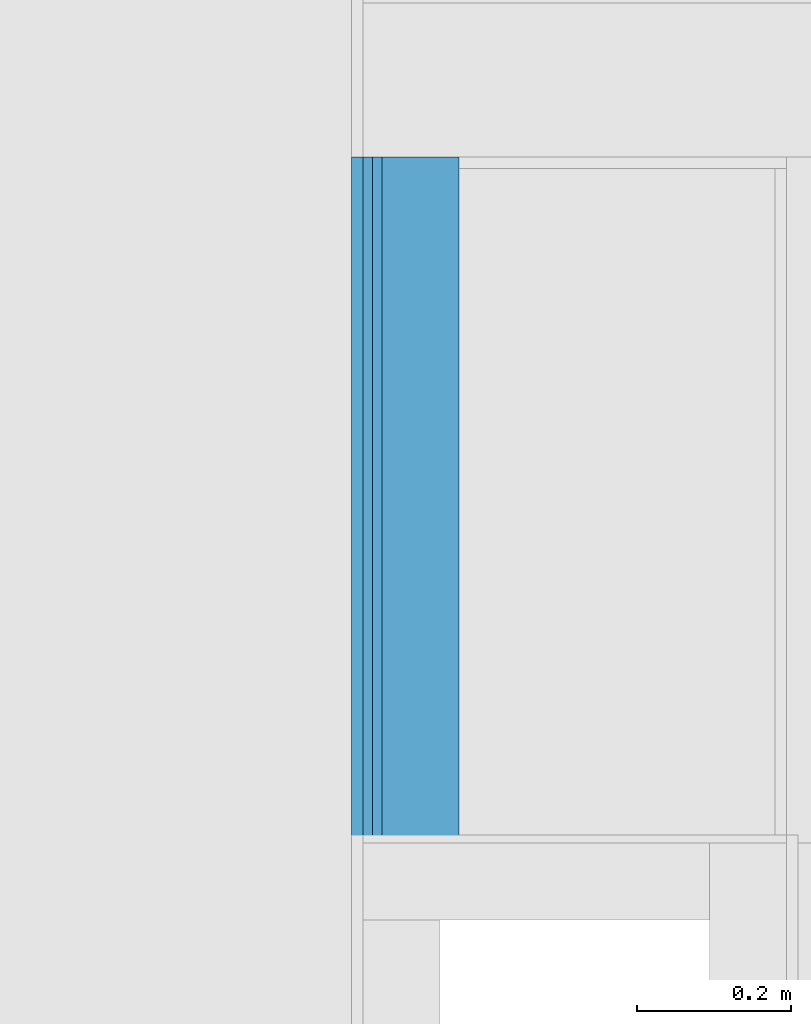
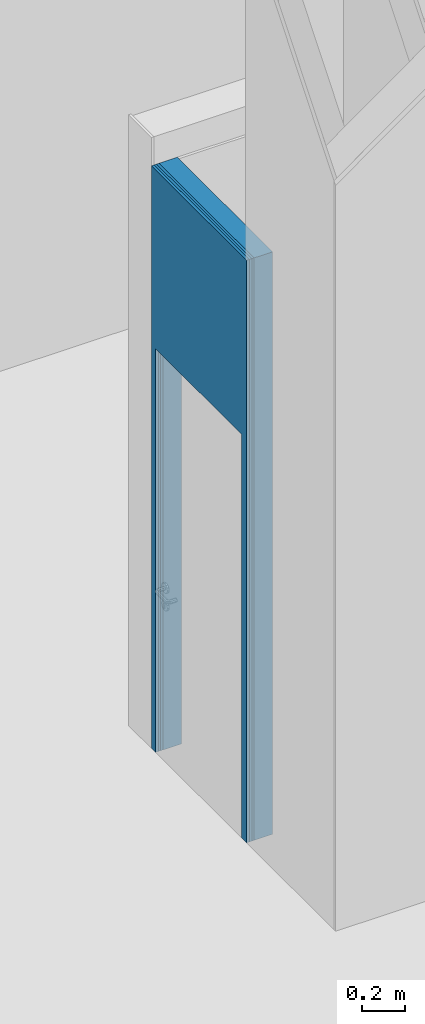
# One storey, part 29 of 139: 4 building element parts, 1 opening, 1 element without a shape of its own.
"""IFC2X3 building model written with IfcOpenShell, lengths in millimetres."""

from ifc_helpers import new_model, entity, si_unit, converted_unit, derived_unit, money_unit, direction, frame, origin_with_axes, place, context, subcontext, project, spatial, faceted_brep, material, type_object, element, aggregate, save


model = new_model("IFC2X3")

# Units and contexts
model_context = context("Model", 3, precision=0.01, world=origin_with_axes(), true_north=direction((0.0, 1.0)))
body_context = subcontext(model_context, "Body", "Model", "MODEL_VIEW")
ifc_project = project(units=[si_unit("LENGTHUNIT", "METRE", prefix="MILLI"), si_unit("AREAUNIT", "SQUARE_METRE"), si_unit("VOLUMEUNIT", "CUBIC_METRE"), converted_unit("PLANEANGLEUNIT", "DEGREE", entity("IfcPlaneAngleMeasure", 0.0174532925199), si_unit("PLANEANGLEUNIT", "RADIAN"), dimensions=[0, 0, 0, 0, 0, 0, 0]), money_unit("EUR"), converted_unit("TIMEUNIT", "Year", entity("IfcTimeMeasure", 31556926.0), si_unit("TIMEUNIT", "SECOND"), dimensions=[0, 0, 1, 0, 0, 0, 0]), si_unit("MASSUNIT", "GRAM", prefix="KILO"), si_unit("THERMODYNAMICTEMPERATUREUNIT", "DEGREE_CELSIUS"), si_unit("LUMINOUSINTENSITYUNIT", "LUMEN"), si_unit("ENERGYUNIT", "JOULE", prefix="MEGA"), derived_unit("THERMALCONDUCTANCEUNIT", [(si_unit("POWERUNIT", "WATT"), 1), (si_unit("LENGTHUNIT", "METRE"), -1), (si_unit("THERMODYNAMICTEMPERATUREUNIT", "KELVIN"), -1)]), derived_unit("SPECIFICHEATCAPACITYUNIT", [(si_unit("ENERGYUNIT", "JOULE"), 1), (si_unit("MASSUNIT", "GRAM", prefix="KILO"), -1), (si_unit("THERMODYNAMICTEMPERATUREUNIT", "KELVIN"), -1)]), derived_unit("MASSDENSITYUNIT", [(si_unit("MASSUNIT", "GRAM", prefix="KILO"), 1), (si_unit("VOLUMEUNIT", "CUBIC_METRE"), -1)])], contexts=[model_context])

# Site, building, storey
site_placement = place(None, origin_with_axes())
site = spatial("IfcSite", under=ifc_project, at=site_placement, Name="Kolde pst 67a", CompositionType="ELEMENT")
building_placement = place(site_placement, origin_with_axes())
building = spatial("IfcBuilding", under=site, at=building_placement, Name="Riigigümnaasium", CompositionType="ELEMENT")
storey_placement = place(building_placement, frame((0.0, 0.0, 4600.0), z_axis=(0.0, 0.0, 1.0), x_axis=(1.0, 0.0, 0.0)))
storey = spatial("IfcBuildingStorey", under=building, at=storey_placement, Name="2. korrus", CompositionType="ELEMENT", Elevation=4600.0)

# Wall, opening, building element parts
wall_type = type_object("IfcWallType", Name="SS-MK-10/2_šahti sein+plaat 140", PredefinedType="NOTDEFINED")
wall_placement = place(storey_placement, frame((36039.99923, 49569.9999858, 0.0), z_axis=(0.0, 0.0, 1.0), x_axis=(0.0, -1.0, 0.0)))
wall = element("IfcWall", 1, at=wall_placement, inside=storey, type_object=wall_type, Name="Sisesein")
opening_placement = place(wall_placement, frame((439.999649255, 0.0, 0.0), z_axis=(0.0, 0.0, 1.0), x_axis=(1.0, 0.0, 0.0)))
element("IfcOpeningElement", 2, at=opening_placement, cuts=wall, Name="Siseuks", context=body_context, shape_type="Brep", body=[
    faceted_brep([(400.0, -280.0, 2300.0), (400.0, -280.0, 0.0), (400.0, 140.0, 0.0), (400.0, 140.0, 2300.0), (-400.0, -280.0, 2300.0), (-400.0, -280.0, 0.0), (-400.0, 140.0, 0.0), (-400.0, 140.0, 2300.0)], [[[0, 1, 2, 3]], [[0, 4, 5, 1]], [[1, 5, 6, 2]], [[3, 2, 6, 7]], [[4, 0, 3, 7]], [[5, 4, 7, 6]]]),
])
ifc_material_1 = material(Name="_KARKASS - metallkarkass CW 100/50/06 ja UW 100/40/06, samm 600, vahel mineraalvill, helineeldetegur αw = 1.0,  ISOVER ACOUSTIC 100mm või samaväärne")
building_element_part_1_placement = place(wall_placement, origin_with_axes())
building_element_part_1 = element("IfcBuildingElementPart", 3, at=building_element_part_1_placement, material=ifc_material_1, Name="_KARKASS - metallkarkass CW 100/50/06 ja UW 100/40/06, samm 600, vahel mineraalvill, helineeldetegur αw = 1.0,  ISOVER ACOUSTIC 100mm või samaväärne", context=body_context, shape_type="Brep", body=[
    faceted_brep([(839.999649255, 140.0, 0.0), (839.999649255, 140.0, 2300.0), (39.9996492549, 140.0, 2300.0), (39.9996492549, 140.0, 0.0), (0.0, 140.0, 0.0), (0.0, 140.0, 3320.0), (889.999649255, 140.0, 3320.0), (889.999649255, 140.0, 0.0), (839.999649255, 40.0, 0.0), (839.999649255, 40.0, 2300.0), (39.9996492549, 40.0, 2300.0), (39.9996492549, 40.0, 0.0), (0.0, 40.0, 0.0), (0.0, 40.0, 3320.0), (889.999649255, 40.0, 3320.0), (889.999649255, 40.0, 0.0)], [[[0, 1, 2, 3, 4, 5, 6, 7]], [[1, 0, 8, 9]], [[2, 1, 9, 10]], [[3, 2, 10, 11]], [[3, 11, 12, 4]], [[5, 4, 12, 13]], [[5, 13, 14, 6]], [[14, 15, 7, 6]], [[8, 0, 7, 15]], [[9, 8, 15, 14, 13, 12, 11, 10]]]),
])
ifc_material_2 = material(Name="_PLAATMATERJAL - kipsplaat veekindel")
building_element_part_2_placement = place(wall_placement, origin_with_axes())
building_element_part_2 = element("IfcBuildingElementPart", 4, at=building_element_part_2_placement, material=ifc_material_2, Name="_PLAATMATERJAL - kipsplaat veekindel", context=body_context, shape_type="Brep", body=[
    faceted_brep([(839.999649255, 40.0, 0.0), (839.999649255, 40.0, 2300.0), (39.9996492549, 40.0, 2300.0), (39.9996492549, 40.0, 0.0), (0.0, 40.0, 0.0), (0.0, 40.0, 3320.0), (889.999649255, 40.0, 3320.0), (889.999649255, 40.0, 0.0), (839.999649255, 27.5, 0.0), (839.999649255, 27.5, 2300.0), (39.9996492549, 27.5, 2300.0), (39.9996492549, 27.5, 0.0), (0.0, 27.5, 0.0), (0.0, 27.5, 3320.0), (889.999649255, 27.5, 3320.0), (889.999649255, 27.5, 0.0)], [[[0, 1, 2, 3, 4, 5, 6, 7]], [[1, 0, 8, 9]], [[2, 1, 9, 10]], [[3, 2, 10, 11]], [[3, 11, 12, 4]], [[5, 4, 12, 13]], [[5, 13, 14, 6]], [[14, 15, 7, 6]], [[8, 0, 7, 15]], [[9, 8, 15, 14, 13, 12, 11, 10]]]),
])
building_element_part_3_placement = place(wall_placement, origin_with_axes())
building_element_part_3 = element("IfcBuildingElementPart", 5, at=building_element_part_3_placement, material=ifc_material_2, Name="_PLAATMATERJAL - kipsplaat veekindel", context=body_context, shape_type="Brep", body=[
    faceted_brep([(839.999649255, 27.5, 0.0), (839.999649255, 27.5, 2300.0), (39.9996492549, 27.5, 2300.0), (39.9996492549, 27.5, 0.0), (0.0, 27.5, 0.0), (0.0, 27.5, 3320.0), (889.999649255, 27.5, 3320.0), (889.999649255, 27.5, 0.0), (839.999649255, 15.0, 0.0), (839.999649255, 15.0, 2300.0), (39.9996492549, 15.0, 2300.0), (39.9996492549, 15.0, 0.0), (0.0, 15.0, 0.0), (0.0, 15.0, 3320.0), (889.999649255, 15.0, 3320.0), (889.999649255, 15.0, 0.0)], [[[0, 1, 2, 3, 4, 5, 6, 7]], [[1, 0, 8, 9]], [[2, 1, 9, 10]], [[3, 2, 10, 11]], [[3, 11, 12, 4]], [[5, 4, 12, 13]], [[5, 13, 14, 6]], [[14, 15, 7, 6]], [[8, 0, 7, 15]], [[9, 8, 15, 14, 13, 12, 11, 10]]]),
])
ifc_material_3 = material(Name="_VIIMISTLUSKIHT - viimistlus vastavalt SA osale")
building_element_part_4_placement = place(wall_placement, origin_with_axes())
building_element_part_4 = element("IfcBuildingElementPart", 6, at=building_element_part_4_placement, material=ifc_material_3, Name="_VIIMISTLUSKIHT - viimistlus vastavalt SA osale", context=body_context, shape_type="Brep", body=[
    faceted_brep([(839.999649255, 15.0, 0.0), (839.999649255, 15.0, 2300.0), (39.9996492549, 15.0, 2300.0), (39.9996492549, 15.0, 0.0), (0.0, 15.0, 0.0), (0.0, 15.0, 3320.0), (889.999649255, 15.0, 3320.0), (889.999649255, 15.0, 0.0), (839.999649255, 0.0, 0.0), (839.999649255, 0.0, 2300.0), (39.9996492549, 0.0, 2300.0), (39.9996492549, 0.0, 0.0), (0.0, 0.0, 0.0), (0.0, 0.0, 3320.0), (889.999649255, 0.0, 3320.0), (889.999649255, 0.0, 0.0)], [[[0, 1, 2, 3, 4, 5, 6, 7]], [[1, 0, 8, 9]], [[2, 1, 9, 10]], [[3, 2, 10, 11]], [[3, 11, 12, 4]], [[5, 4, 12, 13]], [[5, 13, 14, 6]], [[14, 15, 7, 6]], [[8, 0, 7, 15]], [[9, 8, 15, 14, 13, 12, 11, 10]]]),
])
aggregate(wall, [building_element_part_1, building_element_part_2, building_element_part_3, building_element_part_4])

save(model, "model.ifc")
